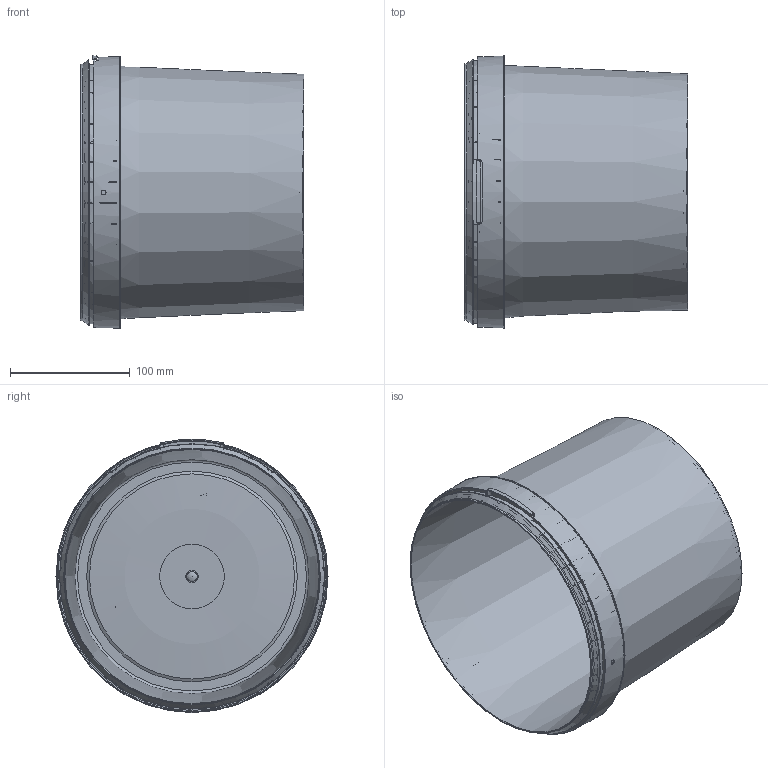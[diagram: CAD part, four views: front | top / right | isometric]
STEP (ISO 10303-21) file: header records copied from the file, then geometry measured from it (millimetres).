
FILE_DESCRIPTION(('STEP AP203'), '1');
FILE_NAME('Êîðïóñ 5 ë.', '', ('UNSPECIFIED'), ('UNSPECIFIED'), 'C3D Converter', 'C3D Toolkit', '');
FILE_SCHEMA(('CONFIG_CONTROL_DESIGN'));
Length unit declared in the file: millimetre
Products named in the file (1): 171.13-00-01
Bounding box: 186 x 226.81 x 227.61 mm (x, y, z)
Volume: 182978.5 mm3; surface area: 357694.9 mm2
Topology: 1 solids, 1 shells, 1080 faces, 3070 edges, 2037 vertices
Faces by surface type: plane 578, cylinder 354, cone 89, extrusion 18, torus 16, bspline 14, revolution 9, sphere 2
Full cylindrical faces by diameter (mm): 4 x2, 221.005 x1
Entity records: 45950 total; most frequent: CARTESIAN_POINT 19521, ORIENTED_EDGE 6052, DIRECTION 4712, EDGE_CURVE 3026, VERTEX_POINT 2033, AXIS2_PLACEMENT_3D 1705, VECTOR 1293, LINE 1275
